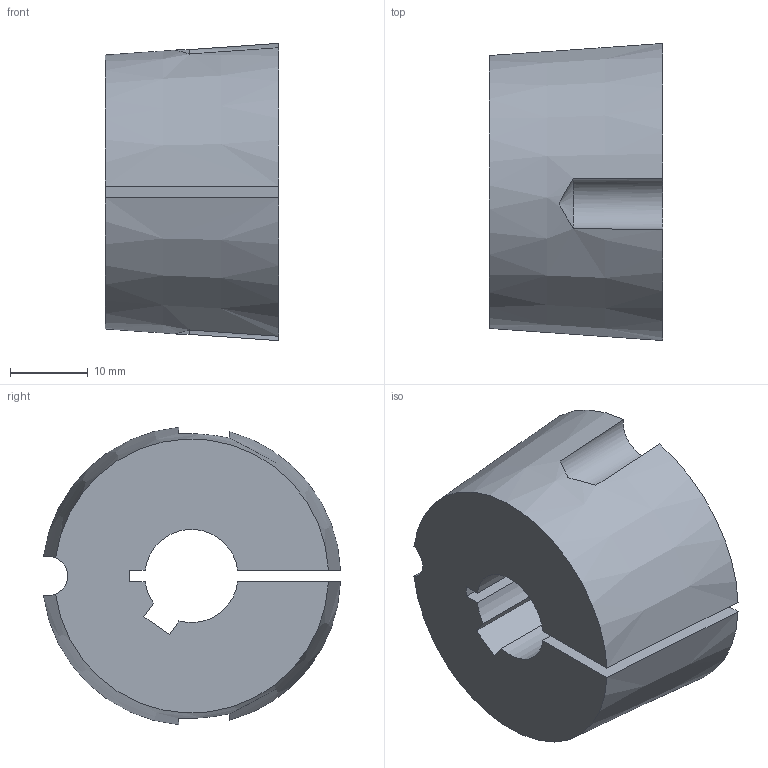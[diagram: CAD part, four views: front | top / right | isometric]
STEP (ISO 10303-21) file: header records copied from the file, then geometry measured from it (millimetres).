
FILE_DESCRIPTION( ( 'STEP AP203' ), '1' );
FILE_NAME( 'D:/export/antriebselemente/spannbuchsen_und_spannsaetze/taper-spannbuchsen_1008_bis_5050/taper-spannbuchsen_62250212Isometric_19.stp', '2018-12-11T11:10:58', ( '' ), ( '' ), ' ', 'PARTsolutions', ' ' );
FILE_SCHEMA( ( 'CONFIG_CONTROL_DESIGN' ) );
Length unit declared in the file: millimetre
Products named in the file (1): _taper-spannbuchsen_62250212
Bounding box: 22.3 x 38.22 x 38.26 mm (x, y, z)
Volume: 19954 mm3; surface area: 6055.3 mm2
Topology: 1 solids, 1 shells, 20 faces, 54 edges, 36 vertices
Faces by surface type: plane 10, cylinder 6, cone 4
Entity records: 736 total; most frequent: CARTESIAN_POINT 187, ORIENTED_EDGE 108, DIRECTION 104, EDGE_CURVE 54, AXIS2_PLACEMENT_3D 39, VERTEX_POINT 36, LINE 26, VECTOR 26
